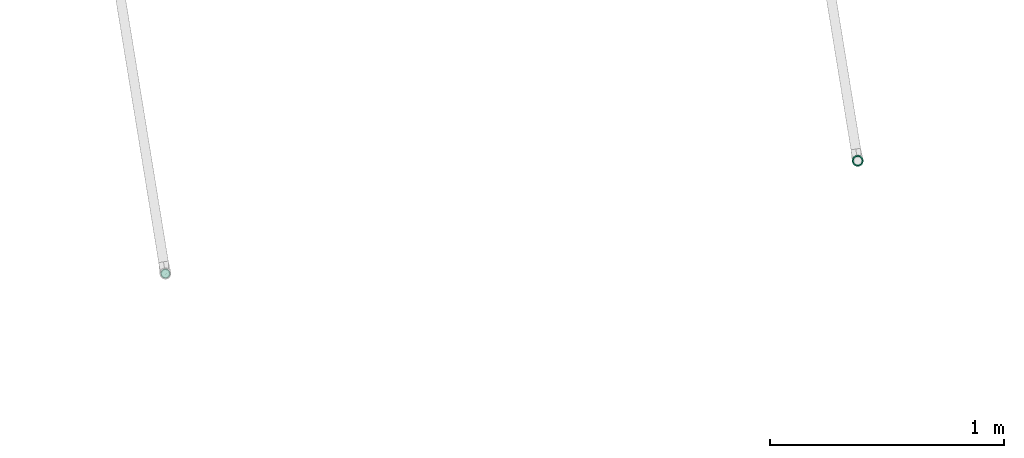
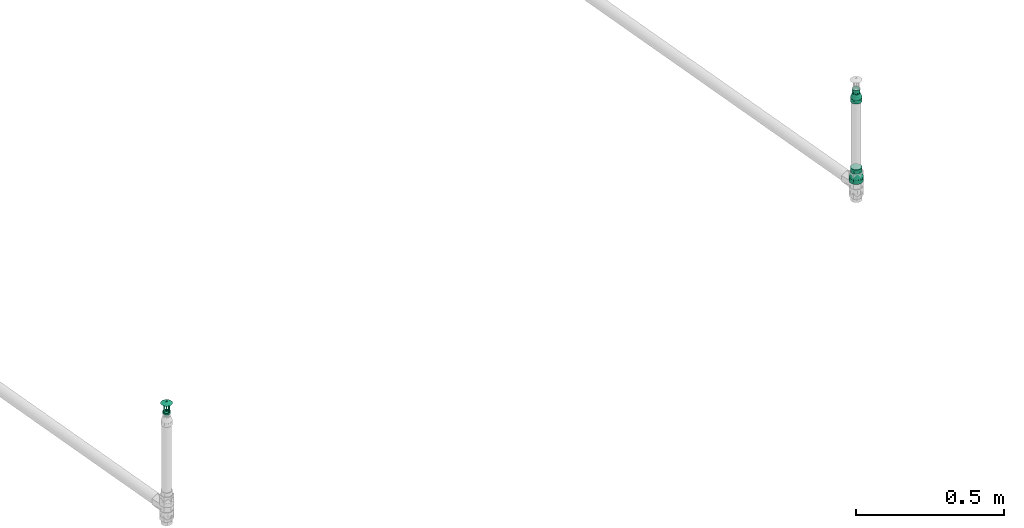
# One storey, part 31 of 56: 2 flow fittings, 1 flow terminal.
"""IFC2X3 building model written with IfcOpenShell, lengths in millimetres."""

from ifc_helpers import new_model, entity, si_unit, converted_unit, derived_unit, direction, frame, origin, origin_with_axes, place, context, subcontext, project, spatial, faceted_brep, source, transform, mapped, material, type_object, element, save


model = new_model("IFC2X3")

# Units and contexts
model_context = context("Model", 3, precision=0.01, world=origin(), true_north=direction((6.12323399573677e-17, 1.0)))
plan_context = context("Plan", 3, precision=1e-05, world=origin_with_axes())
body_context = subcontext(model_context, "Body", "Model", "MODEL_VIEW")
ifc_project = project(units=[converted_unit("PLANEANGLEUNIT", "DEGREE", entity("IfcPositiveLengthMeasure", 0.0174532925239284), si_unit("PLANEANGLEUNIT", "RADIAN"), dimensions=[0, 0, 0, 0, 0, 0, 0]), si_unit("AREAUNIT", "SQUARE_METRE"), si_unit("LENGTHUNIT", "METRE", prefix="MILLI"), si_unit("MASSUNIT", "GRAM", prefix="KILO"), si_unit("POWERUNIT", "WATT"), si_unit("PRESSUREUNIT", "PASCAL", prefix="KILO"), si_unit("FORCEUNIT", "NEWTON", prefix="KILO"), si_unit("ELECTRICVOLTAGEUNIT", "VOLT"), si_unit("ELECTRICCURRENTUNIT", "AMPERE"), si_unit("THERMODYNAMICTEMPERATUREUNIT", "DEGREE_CELSIUS"), si_unit("TIMEUNIT", "SECOND"), si_unit("VOLUMEUNIT", "CUBIC_METRE"), derived_unit("LINEARVELOCITYUNIT", [(si_unit("LENGTHUNIT", "METRE"), 1), (si_unit("TIMEUNIT", "SECOND"), -1)]), derived_unit("VOLUMETRICFLOWRATEUNIT", [(si_unit("VOLUMEUNIT", "CUBIC_METRE"), 1), (si_unit("TIMEUNIT", "SECOND"), -1)]), derived_unit("THERMALTRANSMITTANCEUNIT", [(si_unit("POWERUNIT", "WATT"), 1), (si_unit("THERMODYNAMICTEMPERATUREUNIT", "KELVIN"), -1), (si_unit("AREAUNIT", "SQUARE_METRE"), -1)]), derived_unit("SOUNDPRESSUREUNIT", [(si_unit("PRESSUREUNIT", "PASCAL"), 1)])], contexts=[model_context, plan_context])

# Site, building, storey
site_placement = place(None, frame((-3.09682673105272e-06, 1.93776733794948e-05, 0.0), z_axis=(0.0, 0.0, 1.0), x_axis=(-0.160806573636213, 0.986985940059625, 0.0)))
site = spatial("IfcSite", under=ifc_project, at=site_placement, Name="Default", CompositionType="ELEMENT")
building_placement = place(site_placement, frame((0.0, 0.0, 0.0), z_axis=(0.0, 0.0, 1.0), x_axis=(1.0, -2.77555756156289e-17, 0.0)))
building = spatial("IfcBuilding", under=site, at=building_placement, Name="Bygning (endres i Project Information)", CompositionType="ELEMENT")
storey_placement = place(building_placement, frame((0.0, 0.0, 51360.0000000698), z_axis=(0.0, 0.0, 1.0), x_axis=(1.0, -2.77555756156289e-17, 0.0)))
storey = spatial("IfcBuildingStorey", under=building, at=storey_placement, Name="H01-Nivå D+0,36", CompositionType="ELEMENT", Elevation=51360.0000000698)

# Flow fittings
ifc_material = material(Name="3320.001")
pipe_fitting_type_1 = type_object("IfcPipeFittingType", Name="RS_53_PIF_UN_Reducing-Socket-EN10241_MC_gen:RS_53_PIF_UN_Reducing-Socket-EN10241_MC_gen", PredefinedType="NOTDEFINED", material=ifc_material)
shared_shape_1 = source(origin(), body_context, "Body", "Brep", [
    faceted_brep([(0.0, 5.11167614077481, 19.0770350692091), (0.0, 9.87500000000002, 17.1040017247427), (0.0, 13.9653589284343, 13.9653589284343), (0.0, 17.1040017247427, 9.87499999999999), (0.0, 19.0770350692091, 5.11167614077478), (0.0, 19.75, 0.0), (0.0, 19.0770350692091, -5.1116761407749), (0.0, 17.1040017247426, -9.8750000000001), (0.0, 13.9653589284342, -13.9653589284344), (0.0, 9.87499999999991, -17.1040017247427), (0.0, 5.11167614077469, -19.0770350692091), (0.0, 0.0, -19.75), (0.0, -5.11167614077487, -19.0770350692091), (0.0, -9.87500000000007, -17.1040017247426), (0.0, -13.9653589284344, -13.9653589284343), (0.0, -17.1040017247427, -9.87499999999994), (0.0, -19.0770350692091, -5.11167614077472), (0.0, -19.75, 0.0), (0.0, -19.0770350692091, 5.11167614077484), (0.0, -17.1040017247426, 9.87500000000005), (0.0, -13.9653589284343, 13.9653589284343), (0.0, -9.87499999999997, 17.1040017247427), (0.0, -5.11167614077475, 19.0770350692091), (0.0, 0.0, 19.75), (17.0, -6.65118285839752, -18.277344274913), (17.0, -15.1289479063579, -12.6955675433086), (17.0, -16.8438814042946, -9.72538978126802), (17.0, -18.5588149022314, -6.7552120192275), (17.0, -9.87413131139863, -17.1045032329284), (17.0, -12.5015396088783, -14.9000353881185), (17.0, -19.1544074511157, -3.37760600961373), (17.0, -3.42823440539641, -19.4501853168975), (17.0, 3.43119786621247, -19.4496627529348), (17.0, 0.0014817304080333, -19.4499240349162), (17.0, -19.75, 0.0), (17.0, 6.65396758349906, -18.2763306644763), (17.0, 9.87673730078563, -17.1029985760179), (17.0, 18.5598439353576, -6.75238425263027), (17.0, 16.8453630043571, -9.7228232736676), (17.0, 15.1308820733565, -12.6932622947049), (17.0, 12.5038096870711, -14.8981304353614), (17.0, 19.75, 0.0), (17.0, 15.1308820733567, 12.6932622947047), (17.0, 16.8453630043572, 9.72282327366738), (17.0, 18.5598439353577, 6.75238425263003), (17.0, 9.87673730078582, 17.1029985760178), (17.0, 12.5038096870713, 14.8981304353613), (17.0, 3.43119786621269, 19.4496627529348), (17.0, 6.65396758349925, 18.2763306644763), (17.0, -3.4282344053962, 19.4501853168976), (17.0, 0.00148173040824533, 19.4499240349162), (17.0, -15.1289479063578, 12.6955675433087), (17.0, -6.65118285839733, 18.277344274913), (17.0, -9.87413131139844, 17.1045032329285), (17.0, -12.5015396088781, 14.9000353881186), (17.0, -19.1544074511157, 3.37760600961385), (17.0, -18.5588149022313, 6.75521201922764), (17.0, -16.8438814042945, 9.72538978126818), (34.0, 13.5000000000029, 0.0), (34.0, 12.6868795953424, -4.61444320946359), (34.0, -4.54589529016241, -12.4935366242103), (34.0, -2.34276817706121, -13.2951659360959), (34.0, 6.75195505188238, -11.6902139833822), (34.0, 0.00166747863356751, -13.2948718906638), (34.0, 2.34610313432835, -13.2945778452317), (34.0, 10.3432928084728, -8.67561489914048), (34.0, 8.54762393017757, -10.1829144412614), (34.0, 4.54902909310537, -12.492395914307), (34.0, 11.5150862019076, -6.64502905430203), (34.0, -6.74902240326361, -11.6919073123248), (34.0, -13.4999999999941, 0.0), (34.0, -13.0928608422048, -2.30881275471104), (34.0, -10.3411162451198, -8.6782091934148), (34.0, -8.54506932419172, -10.1850582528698), (34.0, -12.6857216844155, -4.61762550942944), (34.0, -11.5134189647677, -6.64791735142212), (34.0, -13.0928608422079, 2.30881275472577), (34.0, -12.6857216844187, 4.6176255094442), (34.0, 2.34610313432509, 13.2945778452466), (34.0, 4.54902909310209, 12.4923959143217), (34.0, -10.3411162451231, 8.67820919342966), (34.0, 0.00166747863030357, 13.2948718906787), (34.0, -6.74902240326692, 11.6919073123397), (34.0, -8.54506932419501, 10.1850582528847), (34.0, -11.5134189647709, 6.64791735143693), (34.0, -2.34276817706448, 13.2951659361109), (34.0, -4.5458952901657, 12.4935366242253), (34.0, 12.6868795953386, 4.61444320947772), (34.0, 11.5150862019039, 6.64502905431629), (34.0, 10.3432928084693, 8.67561489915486), (34.0, 6.7519550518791, 11.6902139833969), (34.0, 8.54762393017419, 10.1829144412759), (51.0, 3.49405710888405, -13.0399986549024), (51.0, 6.75000000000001, -11.6913429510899), (51.0, 9.5459415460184, -9.54594154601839), (51.0, 11.6913429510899, -6.74999999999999), (51.0, 13.0399986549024, -3.49405710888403), (51.0, 13.5, 0.0), (51.0, 13.0399986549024, 3.49405710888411), (51.0, 11.6913429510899, 6.75000000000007), (51.0, 9.54594154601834, 9.54594154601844), (51.0, 6.74999999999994, 11.69134295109), (51.0, 3.49405710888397, 13.0399986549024), (51.0, 0.0, 13.5), (51.0, -3.49405710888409, 13.0399986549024), (51.0, -6.75000000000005, 11.6913429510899), (51.0, -9.54594154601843, 9.54594154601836), (51.0, -11.6913429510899, 6.74999999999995), (51.0, -13.0399986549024, 3.49405710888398), (51.0, -13.5, 0.0), (51.0, -13.0399986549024, -3.49405710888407), (51.0, -11.6913429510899, -6.75000000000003), (51.0, -9.54594154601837, -9.54594154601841), (51.0, -6.74999999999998, -11.6913429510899), (51.0, -3.49405710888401, -13.0399986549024), (51.0, 0.0, -13.5)], [[[0, 1, 2, 3, 4, 5, 6, 7, 8, 9, 10, 11, 12, 13, 14, 15, 16, 17, 18, 19, 20, 21, 22, 23]], [[24, 13, 12]], [[15, 14, 25]], [[15, 25, 26, 27]], [[28, 29, 13]], [[16, 27, 30]], [[30, 17, 16]], [[15, 27, 16]], [[12, 31, 24]], [[25, 14, 29]], [[11, 32, 33, 31]], [[24, 28, 13]], [[13, 29, 14]], [[30, 34, 17]], [[32, 11, 10]], [[35, 9, 36]], [[7, 37, 38, 39]], [[9, 35, 10]], [[7, 6, 37]], [[8, 39, 40]], [[32, 10, 35]], [[7, 39, 8]], [[40, 36, 9]], [[6, 41, 37]], [[6, 5, 41]], [[11, 31, 12]], [[40, 9, 8]], [[41, 5, 4]], [[3, 2, 42]], [[3, 42, 43, 44]], [[45, 46, 1]], [[44, 41, 4]], [[0, 47, 48]], [[42, 2, 46]], [[23, 49, 50, 47]], [[1, 46, 2]], [[49, 23, 22]], [[19, 51, 20]], [[52, 21, 53]], [[3, 44, 4]], [[48, 45, 1]], [[54, 53, 21]], [[17, 34, 55]], [[21, 52, 22]], [[20, 51, 54]], [[49, 22, 52]], [[48, 1, 0]], [[17, 55, 18]], [[56, 19, 18]], [[18, 55, 56]], [[54, 21, 20]], [[57, 51, 19, 56]], [[23, 47, 0]], [[41, 58, 59]], [[60, 31, 61]], [[40, 62, 36]], [[63, 32, 64]], [[65, 39, 38]], [[64, 32, 35]], [[61, 33, 63]], [[37, 41, 59]], [[62, 40, 66]], [[40, 39, 66]], [[35, 36, 67]], [[65, 38, 68]], [[37, 68, 38]], [[64, 35, 67]], [[61, 31, 33]], [[69, 28, 24]], [[69, 24, 60]], [[70, 30, 71]], [[72, 29, 73]], [[30, 70, 34]], [[74, 27, 26]], [[68, 37, 59]], [[72, 25, 29]], [[27, 74, 71]], [[31, 60, 24]], [[29, 28, 73]], [[75, 26, 25]], [[67, 36, 62]], [[66, 39, 65]], [[27, 71, 30]], [[74, 26, 75]], [[73, 28, 69]], [[63, 33, 32]], [[75, 25, 72]], [[56, 76, 77]], [[48, 78, 79]], [[54, 51, 80]], [[81, 47, 50]], [[57, 56, 77]], [[52, 53, 82]], [[82, 53, 83]], [[55, 70, 76]], [[70, 55, 34]], [[84, 51, 57]], [[50, 85, 81]], [[56, 55, 76]], [[86, 49, 52]], [[83, 53, 54]], [[81, 78, 47]], [[48, 47, 78]], [[80, 51, 84]], [[49, 85, 50]], [[87, 44, 88]], [[87, 58, 41]], [[43, 42, 89]], [[57, 77, 84]], [[46, 45, 90]], [[85, 49, 86]], [[88, 44, 43]], [[54, 80, 83]], [[91, 42, 46]], [[52, 82, 86]], [[89, 42, 91]], [[87, 41, 44]], [[90, 45, 79]], [[46, 90, 91]], [[79, 45, 48]], [[43, 89, 88]], [[92, 93, 94, 95, 96, 97, 98, 99, 100, 101, 102, 103, 104, 105, 106, 107, 108, 109, 110, 111, 112, 113, 114, 115]], [[58, 97, 96]], [[95, 94, 65]], [[95, 65, 68, 59]], [[62, 66, 93]], [[59, 58, 96]], [[92, 64, 67]], [[65, 94, 66]], [[115, 61, 63, 64]], [[93, 66, 94]], [[67, 93, 92]], [[67, 62, 93]], [[95, 59, 96]], [[114, 61, 115]], [[111, 110, 74]], [[73, 113, 112]], [[109, 71, 110]], [[111, 74, 75, 72]], [[109, 70, 71]], [[60, 61, 114]], [[113, 69, 60]], [[111, 72, 112]], [[113, 60, 114]], [[112, 72, 73]], [[115, 64, 92]], [[71, 74, 110]], [[73, 69, 113]], [[86, 105, 104]], [[107, 106, 80]], [[107, 80, 84, 77]], [[82, 83, 105]], [[108, 77, 76]], [[76, 70, 109]], [[76, 109, 108]], [[104, 85, 86]], [[80, 106, 83]], [[103, 78, 81, 85]], [[91, 101, 100]], [[105, 83, 106]], [[86, 82, 105]], [[78, 103, 102]], [[79, 101, 90]], [[99, 87, 88, 89]], [[101, 79, 102]], [[99, 98, 87]], [[100, 89, 91]], [[78, 102, 79]], [[103, 85, 104]], [[99, 89, 100]], [[98, 58, 87]], [[107, 77, 108]], [[98, 97, 58]], [[91, 90, 101]]]),
])
flow_fitting_1_placement = place(storey_placement, frame((994236.263254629, -389286.663841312, 3707.99999993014), z_axis=(2.77555756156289e-17, 1.0, 0.0), x_axis=(0.0, 0.0, 1.0)))
element("IfcFlowFitting", 1, at=flow_fitting_1_placement, inside=storey, type_object=pipe_fitting_type_1, material=ifc_material, Name="RS_53_PIF_UN_Reducing-Socket-EN10241_MC_gen:RS_53_PIF_UN_Reducing-Socket-EN10241_MC_gen", ObjectType="RS_53_PIF_UN_Reducing-Socket-EN10241_MC_gen:RS_53_PIF_UN_Reducing-Socket-EN10241_MC_gen", context=body_context, shape_type="MappedRepresentation", body=[
    mapped(shared_shape_1, transform((0.0, 0.0, 0.0), scale=1.0)),
])
pipe_fitting_type_2 = type_object("IfcPipeFittingType", Name="RS_53_PIF_UN_Reducing-Socket-EN10241_MC_gen:RS_53_PIF_UN_Reducing-Socket-EN10241_MC_gen", PredefinedType="NOTDEFINED", material=ifc_material)
shared_shape_2 = source(origin(), body_context, "Body", "Brep", [
    faceted_brep([(0.0, 0.0, 24.5), (0.0, 6.34106660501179, 23.6651827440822), (0.0, 12.25, 21.2176223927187), (0.0, 17.3241161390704, 17.3241161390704), (0.0, 21.2176223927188, 12.25), (0.0, 23.6651827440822, 6.34106660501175), (0.0, 24.5, 0.0), (0.0, 23.6651827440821, -6.34106660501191), (0.0, 21.2176223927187, -12.2500000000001), (0.0, 17.3241161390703, -17.3241161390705), (0.0, 12.2499999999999, -21.2176223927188), (0.0, 6.34106660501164, -23.6651827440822), (0.0, 0.0, -24.5), (0.0, -6.34106660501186, -23.6651827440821), (0.0, -12.2500000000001, -21.2176223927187), (0.0, -17.3241161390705, -17.3241161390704), (0.0, -21.2176223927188, -12.2499999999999), (0.0, -23.6651827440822, -6.34106660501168), (0.0, -24.5, 0.0), (0.0, -23.6651827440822, 6.34106660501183), (0.0, -21.2176223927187, 12.2500000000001), (0.0, -17.3241161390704, 17.3241161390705), (0.0, -12.25, 21.2176223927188), (0.0, -6.34106660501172, 23.6651827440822), (18.6666666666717, -8.25137606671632, -22.6729794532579), (18.6666666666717, -18.7677686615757, -15.7486780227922), (18.6666666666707, -20.8950763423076, -12.0642027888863), (18.6666666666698, -23.0223840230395, -8.37972755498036), (18.6666666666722, -12.2493529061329, -21.2179959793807), (18.6666666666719, -15.5085607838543, -18.4833370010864), (18.6666666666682, -23.7125607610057, -4.46565710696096), (18.6666666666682, -23.7611920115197, -4.18986377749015), (18.6666666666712, -4.25339922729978, -24.1279629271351), (18.6666666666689, 4.25560674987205, -24.1275736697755), (18.6666666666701, 0.00110376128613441, -24.1277682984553), (18.6666666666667, -24.5, 0.0), (18.6666666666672, 8.25345045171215, -22.6722244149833), (18.6666666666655, 12.2512941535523, -21.2168751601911), (18.6666666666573, 23.0231506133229, -8.37762113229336), (18.6666666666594, 20.8961800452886, -12.062290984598), (18.6666666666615, 18.7692094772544, -15.7469608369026), (18.6666666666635, 15.5102518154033, -18.4819179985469), (18.6666666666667, 24.5, 0.0), (18.6666666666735, 18.7692094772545, 15.7469608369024), (18.666666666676, 20.8961800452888, 12.0622909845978), (18.6666666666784, 23.023150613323, 8.3776211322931), (18.6666666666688, 12.2512941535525, 21.216875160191), (18.6666666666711, 15.5102518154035, 18.4819179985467), (18.6666666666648, 4.25560674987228, 24.1275736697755), (18.6666666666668, 8.25345045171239, 22.6722244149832), (18.6666666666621, -4.25339922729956, 24.1279629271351), (18.6666666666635, 0.00110376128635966, 24.1277682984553), (18.6666666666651, -23.7611920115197, 4.1898637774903), (18.6666666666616, -8.25137606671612, 22.672979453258), (18.666666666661, -12.2493529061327, 21.2179959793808), (18.6666666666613, -15.5085607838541, 18.4833370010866), (18.6666666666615, -18.7677686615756, 15.7486780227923), (18.6666666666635, -23.0223840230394, 8.37972755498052), (18.6666666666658, -23.7125607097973, 4.46565739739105), (18.6666666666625, -20.8950763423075, 12.0642027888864), (37.3333333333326, 19.750000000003, 0.0), (37.3333333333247, 18.5595959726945, -6.75306577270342), (37.3333333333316, 9.87626627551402, -17.1032705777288), (37.3333333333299, 12.5033702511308, -14.8985095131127), (37.3333333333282, 15.1304742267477, -12.6937484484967), (37.3333333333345, 3.43075149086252, -19.4497414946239), (37.333333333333, 6.65350888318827, -18.2765060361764), (37.3333333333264, 16.8450350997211, -9.72340711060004), (37.3333333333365, -3.42859151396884, -19.4501223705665), (37.3333333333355, 0.00107998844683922, -19.4499319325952), (37.3333333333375, -9.87436684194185, -17.1043672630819), (37.333333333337, -6.65147917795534, -18.2772448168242), (37.3333333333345, -19.1544229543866, -3.37756341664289), (37.3333333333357, -18.558845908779, -6.75512683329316), (37.3333333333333, -19.7499999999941, 0.0), (37.3333333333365, -16.8439551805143, -9.72527774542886), (37.3333333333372, -15.1290644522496, -12.6954286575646), (37.3333333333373, -12.5017156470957, -14.8998979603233), (37.3333333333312, -18.5588459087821, 6.755126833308), (37.3333333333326, -19.1544229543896, 3.37756341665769), (37.3333333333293, -15.1290644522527, 12.6954286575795), (37.3333333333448, 18.559595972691, 6.75306577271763), (37.3333333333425, 16.8450350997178, 9.72340711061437), (37.3333333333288, -9.87436684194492, 17.104367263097), (37.3333333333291, -12.5017156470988, 14.8998979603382), (37.3333333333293, -6.65147917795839, 18.2772448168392), (37.3333333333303, -16.8439551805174, 9.72527774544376), (37.333333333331, 0.00107998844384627, 19.4499319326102), (37.3333333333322, 3.43075149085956, 19.4497414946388), (37.3333333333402, 15.1304742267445, 12.6937484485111), (37.333333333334, 6.65350888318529, 18.2765060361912), (37.3333333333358, 9.87626627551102, 17.1032705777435), (37.333333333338, 12.5033702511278, 14.8985095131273), (37.3333333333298, -3.42859151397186, 19.4501223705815), (56.0, 5.11167614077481, -19.0770350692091), (56.0, 9.87500000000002, -17.1040017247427), (56.0, 13.9653589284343, -13.9653589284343), (56.0, 17.1040017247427, -9.87499999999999), (56.0, 19.0770350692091, -5.11167614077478), (56.0, 19.75, 0.0), (56.0, 19.0770350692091, 5.1116761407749), (56.0, 17.1040017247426, 9.8750000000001), (56.0, 13.9653589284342, 13.9653589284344), (56.0, 9.87499999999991, 17.1040017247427), (56.0, 5.11167614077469, 19.0770350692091), (56.0, 0.0, 19.75), (56.0, -5.11167614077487, 19.0770350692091), (56.0, -9.87500000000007, 17.1040017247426), (56.0, -13.9653589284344, 13.9653589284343), (56.0, -17.1040017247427, 9.87499999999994), (56.0, -19.0770350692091, 5.11167614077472), (56.0, -19.75, 0.0), (56.0, -19.0770350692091, -5.11167614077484), (56.0, -17.1040017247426, -9.87500000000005), (56.0, -13.9653589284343, -13.9653589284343), (56.0, -9.87499999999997, -17.1040017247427), (56.0, -5.11167614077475, -19.0770350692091), (56.0, 0.0, -19.75)], [[[0, 1, 2, 3, 4, 5, 6, 7, 8, 9, 10, 11, 12, 13, 14, 15, 16, 17, 18, 19, 20, 21, 22, 23]], [[24, 14, 13]], [[16, 15, 25]], [[16, 25, 26, 27]], [[28, 29, 14]], [[17, 27, 30, 31]], [[31, 18, 17]], [[16, 27, 17]], [[13, 32, 24]], [[25, 15, 29]], [[12, 33, 34, 32]], [[24, 28, 14]], [[14, 29, 15]], [[31, 35, 18]], [[33, 12, 11]], [[36, 10, 37]], [[8, 38, 39, 40]], [[10, 36, 11]], [[8, 7, 38]], [[9, 40, 41]], [[33, 11, 36]], [[8, 40, 9]], [[41, 37, 10]], [[7, 42, 38]], [[7, 6, 42]], [[12, 32, 13]], [[41, 10, 9]], [[42, 6, 5]], [[4, 3, 43]], [[4, 43, 44, 45]], [[46, 47, 2]], [[45, 42, 5]], [[1, 48, 49]], [[43, 3, 47]], [[0, 50, 51, 48]], [[2, 47, 3]], [[50, 0, 23]], [[0, 48, 1]], [[18, 52, 19]], [[53, 22, 54]], [[49, 2, 1]], [[55, 22, 21]], [[35, 52, 18]], [[4, 45, 5]], [[22, 53, 23]], [[21, 56, 55]], [[50, 23, 53]], [[49, 46, 2]], [[20, 56, 21]], [[57, 20, 19]], [[19, 52, 58, 57]], [[55, 54, 22]], [[59, 56, 20, 57]], [[42, 60, 61]], [[41, 62, 37]], [[63, 40, 64]], [[40, 39, 64]], [[33, 36, 65]], [[65, 36, 66]], [[38, 42, 61]], [[64, 39, 67]], [[41, 40, 63]], [[36, 37, 66]], [[62, 41, 63]], [[38, 67, 39]], [[68, 34, 69]], [[68, 32, 34]], [[24, 70, 28]], [[32, 68, 71]], [[72, 35, 31, 30]], [[73, 27, 26]], [[72, 74, 35]], [[26, 75, 73]], [[76, 25, 29]], [[29, 77, 76]], [[70, 24, 71]], [[24, 32, 71]], [[70, 77, 28]], [[76, 75, 25]], [[28, 77, 29]], [[25, 75, 26]], [[73, 30, 27]], [[30, 73, 72]], [[66, 37, 62]], [[69, 34, 33]], [[69, 33, 65]], [[67, 38, 61]], [[78, 58, 79]], [[80, 55, 56]], [[81, 45, 82]], [[78, 59, 57]], [[83, 53, 54]], [[55, 80, 84]], [[79, 58, 52, 35]], [[78, 57, 58]], [[84, 54, 55]], [[85, 50, 53]], [[79, 35, 74]], [[86, 56, 59]], [[84, 83, 54]], [[48, 87, 88]], [[49, 48, 88]], [[59, 78, 86]], [[53, 83, 85]], [[87, 48, 51]], [[81, 60, 42]], [[44, 43, 89]], [[90, 46, 49]], [[47, 46, 91]], [[86, 80, 56]], [[82, 45, 44]], [[49, 88, 90]], [[92, 43, 47]], [[91, 46, 90]], [[51, 50, 93]], [[42, 45, 81]], [[85, 93, 50]], [[44, 89, 82]], [[51, 93, 87]], [[47, 91, 92]], [[89, 43, 92]], [[94, 95, 96, 97, 98, 99, 100, 101, 102, 103, 104, 105, 106, 107, 108, 109, 110, 111, 112, 113, 114, 115, 116, 117]], [[60, 99, 98]], [[97, 96, 64]], [[97, 64, 67, 61]], [[62, 63, 95]], [[61, 60, 98]], [[94, 65, 66]], [[64, 96, 63]], [[117, 68, 69, 65]], [[95, 63, 96]], [[117, 116, 68]], [[77, 70, 115]], [[66, 95, 94]], [[115, 70, 71]], [[113, 112, 73]], [[115, 71, 116]], [[117, 65, 94]], [[97, 61, 98]], [[72, 111, 74]], [[71, 68, 116]], [[113, 76, 114]], [[114, 76, 77]], [[77, 115, 114]], [[113, 73, 75, 76]], [[111, 72, 112]], [[66, 62, 95]], [[72, 73, 112]], [[85, 107, 106]], [[109, 108, 80]], [[109, 80, 86, 78]], [[83, 84, 107]], [[110, 78, 79]], [[79, 111, 110]], [[109, 78, 110]], [[106, 93, 85]], [[80, 108, 84]], [[105, 88, 87, 93]], [[85, 83, 107]], [[107, 84, 108]], [[79, 74, 111]], [[88, 105, 104]], [[90, 103, 91]], [[101, 81, 82, 89]], [[103, 90, 104]], [[101, 100, 81]], [[102, 89, 92]], [[88, 104, 90]], [[101, 89, 102]], [[92, 91, 103]], [[100, 60, 81]], [[100, 99, 60]], [[105, 93, 106]], [[92, 103, 102]]]),
])
flow_fitting_2_placement = place(storey_placement, frame((994236.263254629, -389286.663841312, 3380.93333333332), z_axis=(2.77555756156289e-17, 1.0, 0.0), x_axis=(0.0, 0.0, 1.0)))
element("IfcFlowFitting", 2, at=flow_fitting_2_placement, inside=storey, type_object=pipe_fitting_type_2, material=ifc_material, Name="RS_53_PIF_UN_Reducing-Socket-EN10241_MC_gen:RS_53_PIF_UN_Reducing-Socket-EN10241_MC_gen", ObjectType="RS_53_PIF_UN_Reducing-Socket-EN10241_MC_gen:RS_53_PIF_UN_Reducing-Socket-EN10241_MC_gen", context=body_context, shape_type="MappedRepresentation", body=[
    mapped(shared_shape_2, transform((0.0, 0.0, 0.0), scale=1.0)),
])

# Flow terminal
fire_suppression_terminal_type = type_object("IfcFireSuppressionTerminalType", Name="SU-15-K80-68DGR-STD:SU-15-K80-68DGR-STD", PredefinedType="NOTDEFINED", material=ifc_material)
shared_shape_3 = source(origin(), body_context, "Body", "Brep", [
    faceted_brep([(-2.5, 0.0, 62.0), (0.0, -2.5, 62.0), (2.5, 0.0, 62.0), (0.0, 2.5, 62.0), (-2.5, 0.0, 59.0), (0.0, 2.5, 59.0), (2.5, 0.0, 59.0), (0.0, -2.5, 59.0)], [[[0, 1, 2, 3]], [[4, 5, 6, 7]], [[0, 4, 7, 1]], [[7, 6, 2, 1]], [[2, 6, 5, 3]], [[5, 4, 0, 3]]]),
    faceted_brep([(1.0, -13.5, 47.0), (1.0, -13.5, 19.0), (1.0, -8.5, 19.0), (1.0, -8.5, 42.0), (1.0, 8.5, 42.0), (1.0, 8.5, 19.0), (1.0, 13.5, 19.0), (1.0, 13.5, 47.0), (-1.0, -13.5, 47.0), (-1.0, 13.5, 47.0), (-1.0, 13.5, 19.0), (-1.0, 8.5, 19.0), (-1.0, 8.5, 42.0), (-1.0, -8.5, 42.0), (-1.0, -8.5, 19.0), (-1.0, -13.5, 19.0)], [[[0, 1, 2, 3, 4, 5, 6, 7]], [[8, 9, 10, 11, 12, 13, 14, 15]], [[1, 0, 8, 15]], [[2, 1, 15, 14]], [[3, 2, 14, 13]], [[4, 3, 13, 12]], [[5, 4, 12, 11]], [[6, 5, 11, 10]], [[7, 6, 10, 9]], [[0, 7, 9, 8]]]),
    faceted_brep([(-13.5, 1.0, 47.0), (13.5, 1.0, 47.0), (13.5, 1.0, 19.0), (8.5, 1.0, 19.0), (8.5, 1.0, 42.0), (-8.5, 1.0, 42.0), (-8.5, 1.0, 19.0), (-13.5, 1.0, 19.0), (-13.5, -1.0, 47.0), (-13.5, -1.0, 19.0), (-8.5, -1.0, 19.0), (-8.5, -1.0, 42.0), (8.5, -1.0, 42.0), (8.5, -1.0, 19.0), (13.5, -1.0, 19.0), (13.5, -1.0, 47.0)], [[[0, 1, 2, 3, 4, 5, 6, 7]], [[8, 9, 10, 11, 12, 13, 14, 15]], [[1, 0, 8, 15]], [[2, 1, 15, 14]], [[3, 2, 14, 13]], [[4, 3, 13, 12]], [[5, 4, 12, 11]], [[6, 5, 11, 10]], [[7, 6, 10, 9]], [[0, 7, 9, 8]]]),
    faceted_brep([(0.0, 2.5, 59.0), (-2.5, 0.0, 59.0), (0.0, -2.5, 59.0), (2.5, 0.0, 59.0), (6.4893568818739, 19.9721868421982, 53.0), (16.9893568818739, 12.3434902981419, 53.0), (21.0, 0.0, 53.0), (16.989356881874, -12.3434902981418, 53.0), (6.48935688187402, -19.9721868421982, 53.0), (-6.48935688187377, -19.9721868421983, 53.0), (-16.9893568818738, -12.343490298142, 53.0), (-21.0, 0.0, 53.0), (-16.9893568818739, 12.3434902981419, 53.0), (-6.48935688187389, 19.9721868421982, 53.0)], [[[0, 1, 2, 3]], [[4, 5, 6, 7, 8, 9, 10, 11, 12, 13]], [[6, 3, 7]], [[2, 8, 7]], [[7, 3, 2]], [[2, 1, 10]], [[2, 10, 9]], [[10, 1, 11]], [[2, 9, 8]], [[11, 1, 12]], [[0, 13, 12]], [[12, 1, 0]], [[0, 3, 5]], [[0, 5, 4]], [[5, 3, 6]], [[0, 4, 13]]]),
    faceted_brep([(-2.5, 0.0, 53.0), (0.0, -2.5, 53.0), (2.5, 0.0, 53.0), (0.0, 2.5, 53.0), (-2.5, 0.0, 19.0), (0.0, 2.5, 19.0), (2.5, 0.0, 19.0), (0.0, -2.5, 19.0)], [[[0, 1, 2, 3]], [[4, 5, 6, 7]], [[0, 4, 7, 1]], [[7, 6, 2, 1]], [[2, 6, 5, 3]], [[5, 4, 0, 3]]]),
    faceted_brep([(3.62346663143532, -13.5229615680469, 19.0), (7.0, -12.1243556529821, 19.0), (9.89949493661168, -9.89949493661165, 19.0), (12.1243556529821, -7.0, 19.0), (13.522961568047, -3.62346663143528, 19.0), (14.0, 0.0, 19.0), (13.522961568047, 3.62346663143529, 19.0), (12.1243556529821, 7.0, 19.0), (9.89949493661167, 9.89949493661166, 19.0), (7.0, 12.1243556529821, 19.0), (3.62346663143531, 13.522961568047, 19.0), (0.0, 14.0, 19.0), (-3.62346663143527, 13.522961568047, 19.0), (-7.0, 12.1243556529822, 19.0), (-9.89949493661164, 9.89949493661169, 19.0), (-12.1243556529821, 7.0, 19.0), (-13.5229615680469, 3.62346663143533, 19.0), (-14.0, 0.0, 19.0), (-13.5229615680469, -3.62346663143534, 19.0), (-12.1243556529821, -7.0, 19.0), (-9.89949493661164, -9.89949493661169, 19.0), (-7.0, -12.1243556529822, 19.0), (-3.62346663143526, -13.522961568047, 19.0), (0.0, -14.0, 19.0), (9.89949493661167, 9.89949493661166, 13.0), (12.1243556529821, 7.0, 13.0), (13.522961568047, 3.62346663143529, 13.0), (14.0, 0.0, 13.0), (13.522961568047, -3.62346663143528, 13.0), (12.1243556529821, -7.0, 13.0), (9.89949493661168, -9.89949493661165, 13.0), (7.0, -12.1243556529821, 13.0), (3.62346663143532, -13.5229615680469, 13.0), (0.0, -14.0, 13.0), (-3.62346663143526, -13.522961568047, 13.0), (-7.0, -12.1243556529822, 13.0), (-9.89949493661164, -9.89949493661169, 13.0), (-12.1243556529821, -7.0, 13.0), (-13.5229615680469, -3.62346663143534, 13.0), (-14.0, 0.0, 13.0), (-13.5229615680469, 3.62346663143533, 13.0), (-12.1243556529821, 7.0, 13.0), (-9.89949493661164, 9.89949493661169, 13.0), (-7.0, 12.1243556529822, 13.0), (-3.62346663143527, 13.522961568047, 13.0), (0.0, 14.0, 13.0), (3.62346663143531, 13.522961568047, 13.0), (7.0, 12.1243556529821, 13.0)], [[[0, 1, 2, 3, 4, 5, 6, 7, 8, 9, 10, 11, 12, 13, 14, 15, 16, 17, 18, 19, 20, 21, 22, 23]], [[24, 25, 26, 27, 28, 29, 30, 31, 32, 33, 34, 35, 36, 37, 38, 39, 40, 41, 42, 43, 44, 45, 46, 47]], [[38, 18, 17, 39]], [[37, 19, 18, 38]], [[21, 20, 36, 35]], [[37, 36, 20, 19]], [[22, 21, 35, 34]], [[23, 22, 34, 33]], [[32, 0, 23, 33]], [[31, 1, 0, 32]], [[3, 2, 30, 29]], [[31, 30, 2, 1]], [[4, 3, 29, 28]], [[5, 4, 28, 27]], [[26, 6, 5, 27]], [[25, 7, 6, 26]], [[9, 8, 24, 47]], [[25, 24, 8, 7]], [[10, 9, 47, 46]], [[11, 10, 46, 45]], [[44, 12, 11, 45]], [[43, 13, 12, 44]], [[15, 14, 42, 41]], [[43, 42, 14, 13]], [[16, 15, 41, 40]], [[17, 16, 40, 39]]]),
    faceted_brep([(1.94114283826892, -7.24444369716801, 13.0), (3.75000000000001, -6.49519052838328, 13.0), (5.30330085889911, -5.3033008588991, 13.0), (6.49519052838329, -3.75, 13.0), (7.24444369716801, -1.9411428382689, 13.0), (7.5, 0.0, 13.0), (7.24444369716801, 1.9411428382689, 13.0), (6.49519052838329, 3.75, 13.0), (5.30330085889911, 5.3033008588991, 13.0), (3.75000000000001, 6.49519052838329, 13.0), (1.94114283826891, 7.24444369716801, 13.0), (0.0, 7.5, 13.0), (-1.94114283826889, 7.24444369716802, 13.0), (-3.74999999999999, 6.4951905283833, 13.0), (-5.3033008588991, 5.30330085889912, 13.0), (-6.49519052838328, 3.75000000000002, 13.0), (-7.24444369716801, 1.94114283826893, 13.0), (-7.5, 0.0, 13.0), (-7.244443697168, -1.94114283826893, 13.0), (-6.49519052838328, -3.75000000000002, 13.0), (-5.30330085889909, -5.30330085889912, 13.0), (-3.74999999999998, -6.4951905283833, 13.0), (-1.94114283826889, -7.24444369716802, 13.0), (0.0, -7.5, 13.0), (5.30330085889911, 5.3033008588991, 0.0), (6.49519052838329, 3.75, 0.0), (7.24444369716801, 1.9411428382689, 0.0), (7.5, 0.0, 0.0), (7.24444369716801, -1.9411428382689, 0.0), (6.49519052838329, -3.75, 0.0), (5.30330085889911, -5.3033008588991, 0.0), (3.75000000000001, -6.49519052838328, 0.0), (1.94114283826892, -7.24444369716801, 0.0), (0.0, -7.5, 0.0), (-1.94114283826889, -7.24444369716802, 0.0), (-3.74999999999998, -6.4951905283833, 0.0), (-5.30330085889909, -5.30330085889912, 0.0), (-6.49519052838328, -3.75000000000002, 0.0), (-7.244443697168, -1.94114283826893, 0.0), (-7.5, 0.0, 0.0), (-7.24444369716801, 1.94114283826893, 0.0), (-6.49519052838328, 3.75000000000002, 0.0), (-5.3033008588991, 5.30330085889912, 0.0), (-3.74999999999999, 6.4951905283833, 0.0), (-1.94114283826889, 7.24444369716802, 0.0), (0.0, 7.5, 0.0), (1.94114283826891, 7.24444369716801, 0.0), (3.75000000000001, 6.49519052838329, 0.0)], [[[0, 1, 2, 3, 4, 5, 6, 7, 8, 9, 10, 11, 12, 13, 14, 15, 16, 17, 18, 19, 20, 21, 22, 23]], [[24, 25, 26, 27, 28, 29, 30, 31, 32, 33, 34, 35, 36, 37, 38, 39, 40, 41, 42, 43, 44, 45, 46, 47]], [[38, 18, 17, 39]], [[37, 19, 18, 38]], [[21, 20, 36, 35]], [[37, 36, 20, 19]], [[22, 21, 35, 34]], [[23, 22, 34, 33]], [[32, 0, 23, 33]], [[31, 1, 0, 32]], [[3, 2, 30, 29]], [[31, 30, 2, 1]], [[4, 3, 29, 28]], [[5, 4, 28, 27]], [[26, 6, 5, 27]], [[25, 7, 6, 26]], [[9, 8, 24, 47]], [[25, 24, 8, 7]], [[10, 9, 47, 46]], [[11, 10, 46, 45]], [[44, 12, 11, 45]], [[43, 13, 12, 44]], [[15, 14, 42, 41]], [[43, 42, 14, 13]], [[16, 15, 41, 40]], [[17, 16, 40, 39]]]),
])
flow_terminal_placement = place(storey_placement, frame((994236.263254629, -386286.663841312, 3741.99999993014), z_axis=(0.0, 0.0, 1.0), x_axis=(-1.0, 2.77555756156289e-17, 0.0)))
element("IfcFlowTerminal", 3, at=flow_terminal_placement, inside=storey, type_object=fire_suppression_terminal_type, material=ifc_material, Name="SU-15-K80-68DGR-STD:SU-15-K80-68DGR-STD", ObjectType="SU-15-K80-68DGR-STD:SU-15-K80-68DGR-STD", context=body_context, shape_type="MappedRepresentation", body=[
    mapped(shared_shape_3, transform((0.0, 0.0, 0.0), scale=1.0)),
])

save(model, "model.ifc")
